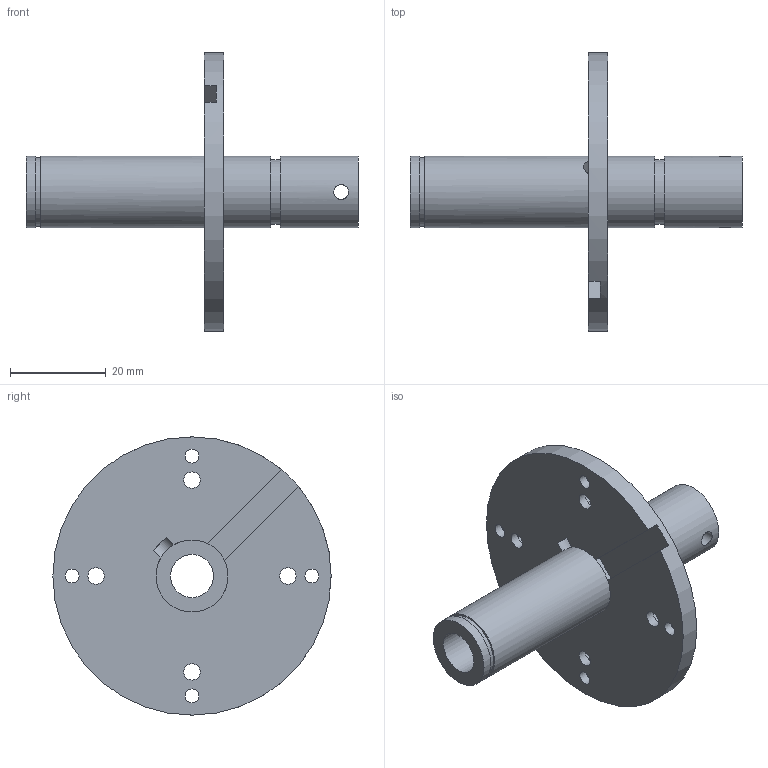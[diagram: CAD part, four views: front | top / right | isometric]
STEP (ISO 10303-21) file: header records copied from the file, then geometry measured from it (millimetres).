
FILE_DESCRIPTION(('Open CASCADE Model'),'2;1');
FILE_NAME('Open CASCADE Shape Model','2026-10-31T23:30:31',('Author'),( 'Open CASCADE'),'Open CASCADE STEP processor 7.9','Open CASCADE 7.9' ,'Unknown');
FILE_SCHEMA(('AUTOMOTIVE_DESIGN { 1 0 10303 214 1 1 1 1 }'));
Length unit declared in the file: millimetre
Products named in the file (1): Open CASCADE STEP translator 7.9 4
Bounding box: 69.2 x 58 x 58 mm (x, y, z)
Volume: 16590.4 mm3; surface area: 11513.4 mm2
Topology: 1 solids, 1 shells, 45 faces, 111 edges, 74 vertices
Faces by surface type: cylinder 27, plane 18
Full cylindrical faces by diameter (mm): 2.9 x4, 3.1 x2, 3.4 x4, 4.5 x1, 9 x1, 13.5 x1, 14.3 x1, 15 x4, 58 x1
Entity records: 4105 total; most frequent: CARTESIAN_POINT 1873, DIRECTION 400, ORIENTED_EDGE 222, PCURVE 222, DEFINITIONAL_REPRESENTATION 222, LINE 159, VECTOR 159, EDGE_CURVE 111
